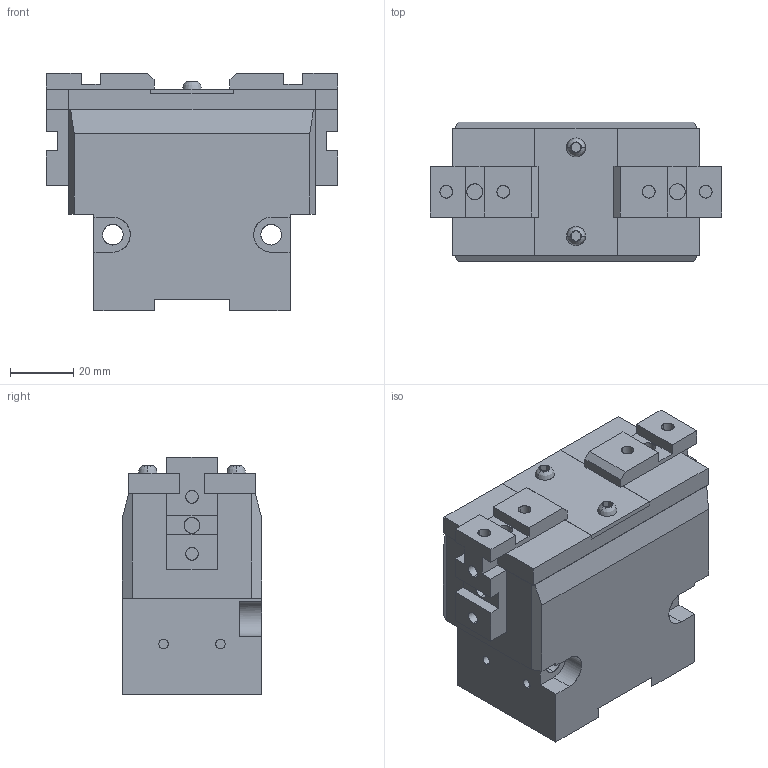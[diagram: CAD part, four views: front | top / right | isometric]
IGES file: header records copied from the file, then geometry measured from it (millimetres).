
Global section: file name: C:\Documents and Settings\Administrateur\Mes documents\OPE-80-SX-OPEN.igs; native system: AutoCAD-16.0s (LMS Tech) (Microsoft Windows NT Version 5.1 (x86)); preprocessor: Autodesk IGES Translator Mechanical Desktop.R7.0.43.0 (Mar 18 2003) from Autodesk, Inc.; date: 20050628.200708; units: millimetre
Bounding box: 92 x 44 x 75 mm (x, y, z)
Surface area: 49851.8 mm2 (no closed solid volume)
Topology: 0 solids, 0 shells, 243 faces, 2502 edges, 2587 vertices
Faces by surface type: bspline 243
